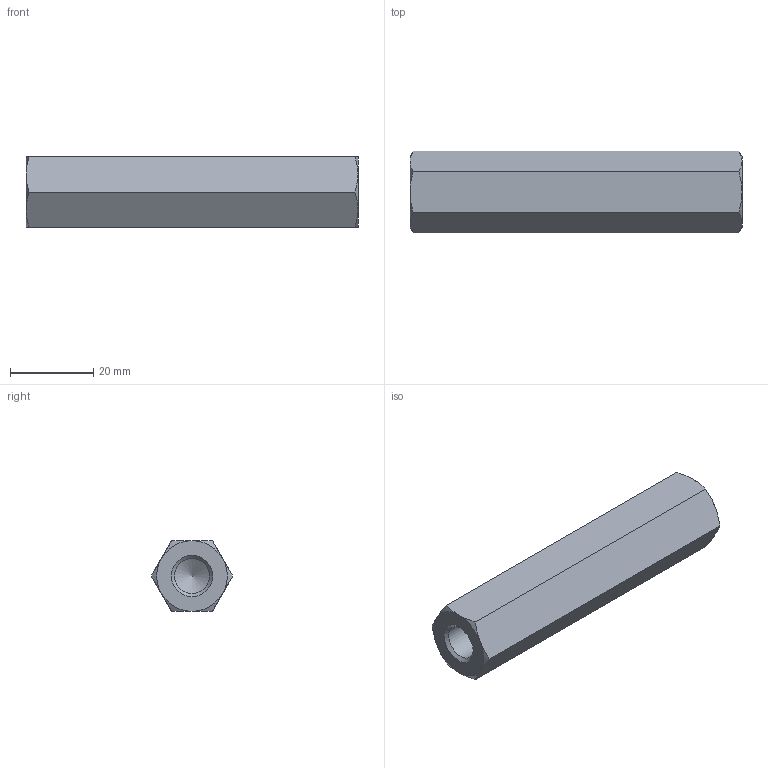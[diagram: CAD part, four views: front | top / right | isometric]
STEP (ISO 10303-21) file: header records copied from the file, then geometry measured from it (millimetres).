
FILE_DESCRIPTION( ( 'STEP AP203' ), '1' );
FILE_NAME( 'C:/Temp/Ganter_Step_05_03_2020/data/3_2/gn6220/gn6220_st/Spacer GN 6220-ST-M10-80-A.stp', '2020-03-13T05:42:38', ( 'License CC BY-ND 4.0' ), ( 'CADENAS' ), ' ', 'PARTsolutions', ' ' );
FILE_SCHEMA( ( 'CONFIG_CONTROL_DESIGN' ) );
Length unit declared in the file: millimetre
Products named in the file (1): _Spacer GN 6220-ST-M10-80-A
Bounding box: 80 x 19.63 x 17 mm (x, y, z)
Volume: 17112.9 mm3; surface area: 6514.8 mm2
Topology: 1 solids, 1 shells, 26 faces, 57 edges, 33 vertices
Faces by surface type: cone 16, plane 8, cylinder 2
Full cylindrical faces by diameter (mm): 8.376 x2
Entity records: 782 total; most frequent: CARTESIAN_POINT 243, DIRECTION 96, ORIENTED_EDGE 96, EDGE_CURVE 48, AXIS2_PLACEMENT_3D 45, EDGE_LOOP 32, VERTEX_POINT 32, FACE_OUTER_BOUND 28
